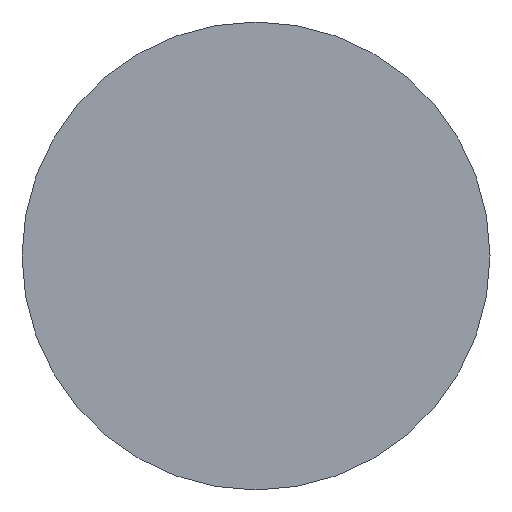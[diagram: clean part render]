
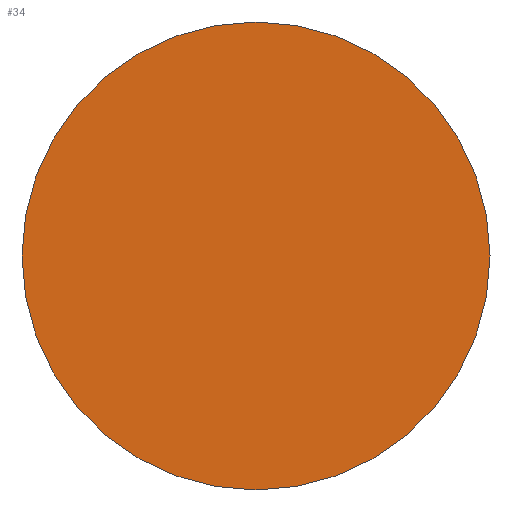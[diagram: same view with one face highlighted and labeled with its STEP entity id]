
A CAD part, top view. The second image highlights one B-rep face of the part: STEP entity #34.
In plain terms, the highlighted planar face has unit normal (0, 0, 1).
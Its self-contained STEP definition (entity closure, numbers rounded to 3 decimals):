
#34=ADVANCED_FACE('',(#71),#72,.F.);
#71=FACE_OUTER_BOUND('',#116,.T.);
#72=PLANE('',#117);
#116=EDGE_LOOP('',(#155));
#117=AXIS2_PLACEMENT_3D('',#156,#157,#158);
#155=ORIENTED_EDGE('',*,*,#213,.F.);
#156=CARTESIAN_POINT('',(0.0,0.0,0.0));
#157=DIRECTION('',(-0.0,0.,-1.0));
#158=DIRECTION('',(0.0,1.0,0.));
#213=EDGE_CURVE('',#232,#232,#233,.T.);
#232=VERTEX_POINT('',#260);
#233=CIRCLE('',#261,12.);
#260=CARTESIAN_POINT('',(0.0,12.,0.));
#261=AXIS2_PLACEMENT_3D('',#287,#288,#289);
#287=CARTESIAN_POINT('',(0.0,0.0,0.0));
#288=DIRECTION('',(-0.0,0.,-1.0));
#289=DIRECTION('',(0.0,1.0,0.));
